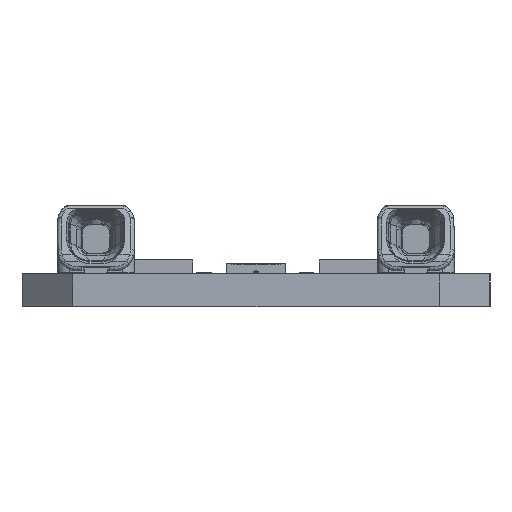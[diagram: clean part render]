
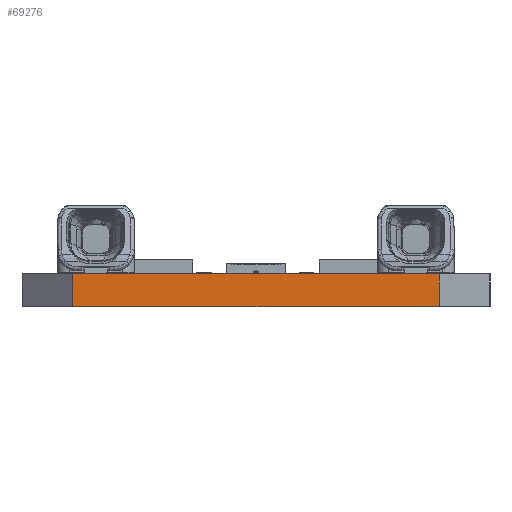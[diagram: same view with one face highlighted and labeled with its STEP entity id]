
A CAD part, left-side view. The second image highlights one B-rep face of the part: STEP entity #69276.
In plain terms, the highlighted planar face has unit normal (-1, 0, 0).
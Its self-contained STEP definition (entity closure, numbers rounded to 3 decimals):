
#3883=DIRECTION('',(0.,0.,1.));
#3884=VECTOR('',#3883,1.651);
#3885=CARTESIAN_POINT('',(-139.5,9.25,0.));
#3886=LINE('',#3885,#3884);
#3890=DIRECTION('',(0.,0.,1.));
#3891=VECTOR('',#3890,1.651);
#3892=CARTESIAN_POINT('',(-139.5,-9.25,0.));
#3893=LINE('',#3892,#3891);
#3897=DIRECTION('',(0.,-1.,0.));
#3898=VECTOR('',#3897,18.5);
#3899=CARTESIAN_POINT('',(-139.5,9.25,0.));
#3900=LINE('',#3899,#3898);
#3904=DIRECTION('',(0.,1.,0.));
#3905=VECTOR('',#3904,18.5);
#3906=CARTESIAN_POINT('',(-139.5,-9.25,1.651));
#3907=LINE('',#3906,#3905);
#60221=CARTESIAN_POINT('',(-139.5,9.25,0.));
#60223=VERTEX_POINT('',#60221);
#60250=CARTESIAN_POINT('',(-139.5,9.25,1.651));
#60252=VERTEX_POINT('',#60250);
#60265=CARTESIAN_POINT('',(-139.5,-9.25,1.651));
#60266=VERTEX_POINT('',#60265);
#60327=CARTESIAN_POINT('',(-139.5,-9.25,0.));
#60328=VERTEX_POINT('',#60327);
#69263=CARTESIAN_POINT('',(-139.5,9.25,1.65));
#69264=DIRECTION('',(-1.,0.,0.));
#69265=DIRECTION('',(0.,0.,1.));
#69266=AXIS2_PLACEMENT_3D('',#69263,#69264,#69265);
#69267=PLANE('',#69266);
#69269=ORIENTED_EDGE('',*,*,#69268,.F.);
#69271=ORIENTED_EDGE('',*,*,#69270,.F.);
#69272=ORIENTED_EDGE('',*,*,#69247,.T.);
#69273=ORIENTED_EDGE('',*,*,#67606,.F.);
#69274=EDGE_LOOP('',(#69269,#69271,#69272,#69273));
#69275=FACE_OUTER_BOUND('',#69274,.F.);
#67606=EDGE_CURVE('',#60266,#60252,#3907,.T.);
#69247=EDGE_CURVE('',#60223,#60252,#3886,.T.);
#69268=EDGE_CURVE('',#60328,#60266,#3893,.T.);
#69270=EDGE_CURVE('',#60223,#60328,#3900,.T.);
#69276=ADVANCED_FACE('',(#69275),#69267,.T.);
